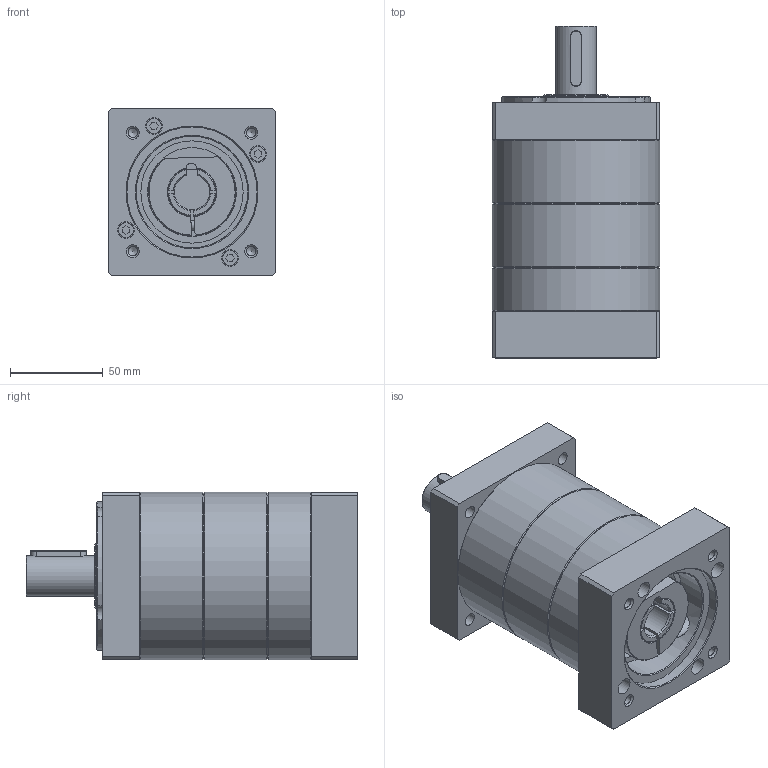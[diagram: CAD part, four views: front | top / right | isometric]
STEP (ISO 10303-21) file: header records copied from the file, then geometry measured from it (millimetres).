
FILE_DESCRIPTION((''),'2;1');
FILE_NAME('D:\T-DATA\Desktop\標準型-型錄用3D\PS90-2.stp','2016-10-17T15:18:50',('Administrator'),(''),'Autodesk Inventor 2013','Autodesk Inventor 2013','');
FILE_SCHEMA(('AUTOMOTIVE_DESIGN { 1 0 10303 214 1 1 1 1 }'));
Length unit declared in the file: millimetre
Products named in the file (1): PS90-2
Bounding box: 90 x 178.5 x 90 mm (x, y, z)
Volume: 890478 mm3; surface area: 106416.2 mm2
Topology: 5 solids, 5 shells, 295 faces, 674 edges, 438 vertices
Faces by surface type: plane 151, cylinder 83, cone 49, torus 12
Full cylindrical faces by diameter (mm): 4.2 x1, 4.917 x5, 5 x5, 5.2 x4, 5.5 x5, 6.8 x4, 8.4 x1, 8.5 x8, 9 x9, 10.086 x1, 10.106 x1, 22 x1, 34.5 x1, 35 x1, 47.8 x1, 55 x1, 60 x1, 62 x1, 70 x3, 90 x3
Entity records: 7968 total; most frequent: CARTESIAN_POINT 1541, DIRECTION 1360, ORIENTED_EDGE 1136, EDGE_CURVE 568, AXIS2_PLACEMENT_3D 535, EDGE_LOOP 452, VERTEX_POINT 424, FACE_OUTER_BOUND 295
